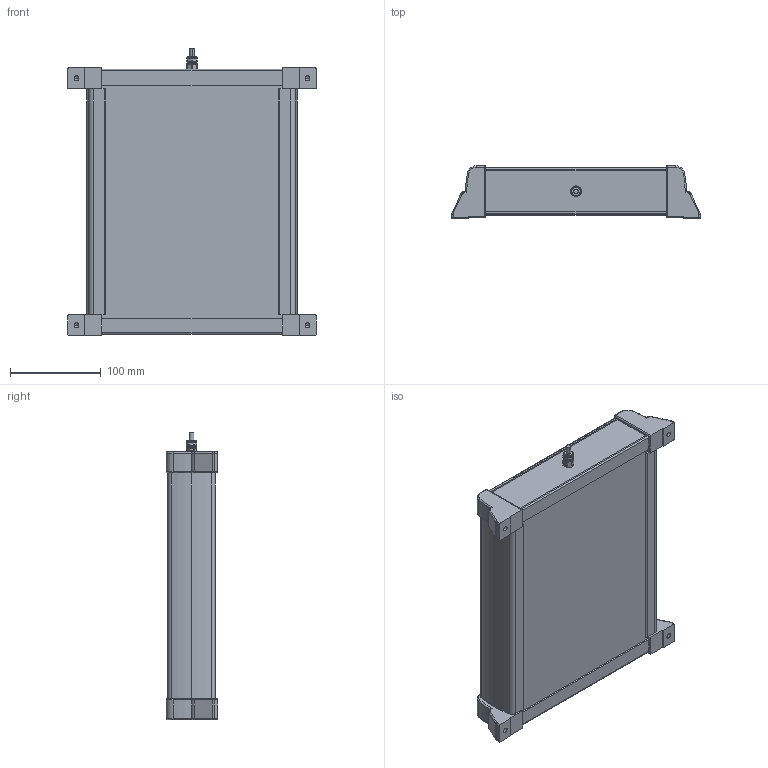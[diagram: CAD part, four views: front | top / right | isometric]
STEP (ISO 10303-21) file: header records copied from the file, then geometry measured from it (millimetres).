
FILE_DESCRIPTION (( 'STEP AP214' ), '1' );
FILE_NAME ('L1014.STEP', '2021-03-15T10:46:29', ( '' ), ( '' ), 'SwSTEP 2.0', 'SolidWorks 2021', '' );
FILE_SCHEMA (( 'AUTOMOTIVE_DESIGN' ));
Length unit declared in the file: millimetre
Products named in the file (4): SKINDICHT_MINI_M_8x1; L1014; Kabel ø5; L1G001014-einfach
Assembly tree (3 placements, depth 2):
  L1014
    L1G001014-einfach
    SKINDICHT_MINI_M_8x1
    Kabel ø5
Bounding box: 273 x 57 x 316.23 mm (x, y, z)
Volume: 3320058.3 mm3; surface area: 200138.1 mm2
Topology: 3 solids, 4 shells, 308 faces, 768 edges, 466 vertices
Faces by surface type: cylinder 128, plane 106, torus 44, cone 26, sphere 4
Entity records: 9333 total; most frequent: CARTESIAN_POINT 1728, DIRECTION 1666, ORIENTED_EDGE 1512, EDGE_CURVE 756, AXIS2_PLACEMENT_3D 632, VERTEX_POINT 466, VECTOR 402, LINE 402
